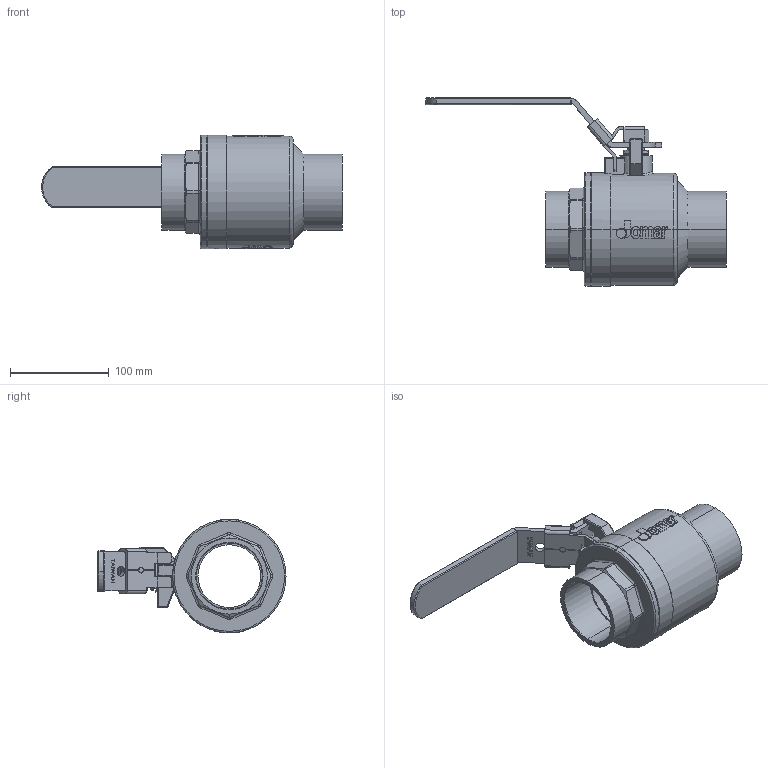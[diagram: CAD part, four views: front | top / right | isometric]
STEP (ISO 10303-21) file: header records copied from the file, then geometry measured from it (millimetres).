
FILE_DESCRIPTION (( 'STEP AP203' ), '1' );
FILE_NAME ('ABL759-有掛鎖--2.5''''JOMAR-CxC閥體組合.STEP', '2025-12-15T08:33:46', ( '' ), ( '' ), 'SwSTEP 2.0', 'SolidWorks 2018', '' );
FILE_SCHEMA (( 'CONFIG_CONTROL_DESIGN' ));
Length unit declared in the file: millimetre
Products named in the file (14): DN65-CBL749-LATCH LOCK HANDLE 組合; EBL309; DN65-掛鎖把手-CBL270; DN65 & DN80-CBL749-白色膠套-T&G-200CSSG-LH; NBL270; RBL270; BBL719-2.5''''JOMAR球閥體-CxC-無鉛-端面無插溝; BBL719A-2.5''''JOMAR球閥-CxC帽蓋-無鉛-端面無插溝; ABL759-有掛鎖--2.5''''JOMAR-CxC閥體組合; EBL209A; GBL210; DN65-掛鎖; TBL270; EBL209B
Assembly tree (14 placements, depth 3):
  ABL759-有掛鎖--2.5''''JOMAR-CxC閥體組合
    BBL719-2.5''''JOMAR球閥體-CxC-無鉛-端面無插溝
    RBL270
    EBL209A
    EBL209B
    GBL210
    BBL719A-2.5''''JOMAR球閥-CxC帽蓋-無鉛-端面無插溝
    DN65-CBL749-LATCH LOCK HANDLE 組合
      DN65-掛鎖把手-CBL270
      DN65-掛鎖
    NBL270
    EBL309  x2
    TBL270
    DN65 & DN80-CBL749-白色膠套-T&G-200CSSG-LH
Bounding box: 304.7 x 190.61 x 115.4 mm (x, y, z)
Volume: 773731.1 mm3; surface area: 282819.8 mm2
Topology: 13 solids, 13 shells, 2362 faces, 6335 edges, 4177 vertices
Faces by surface type: plane 1269, bspline 673, cylinder 304, cone 68, torus 36, sphere 12
Entity records: 126431 total; most frequent: CARTESIAN_POINT 71385, ORIENTED_EDGE 12598, DIRECTION 8474, EDGE_CURVE 6299, VERTEX_POINT 4159, VECTOR 3948, LINE 3948, EDGE_LOOP 2562
